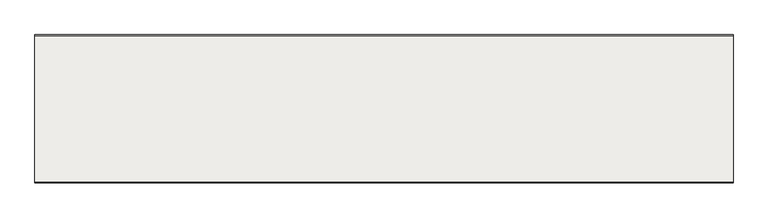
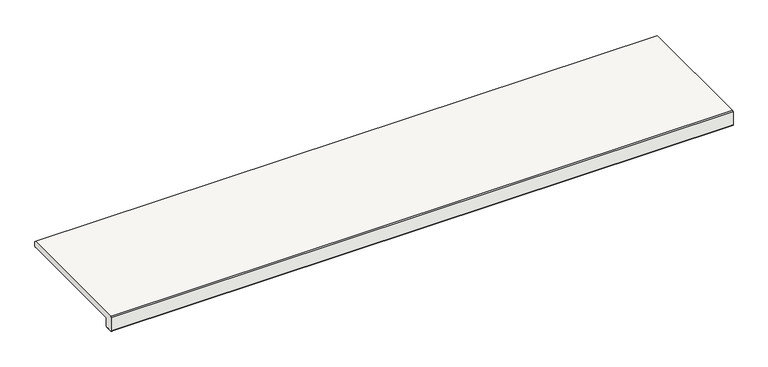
"""IFC4 building model written with IfcOpenShell, lengths in millimetres: slab geometry, ROSA GRES_L98 : Pieza L98_Serena_Ocra_Anti-Slip."""

from ifc_helpers import new_model, si_unit, point, frame, frame_2d, origin, place, context, project, spatial, polyline, circle_curve, trimmed, segment, composite_curve, outline, extrude, source, transform, mapped, element, save


def slab_bc5605a9(model_context):
    return source(origin(), model_context, "Body", "SweptSolid", [
        extrude(outline(composite_curve([segment(polyline([(17.5526771, -23.0), (11.8841218, -23.0)]), True, "CONTINUOUS"), segment(trimmed(circle_curve(frame_2d((10.0167467, -23.0)), 1.8673751), [point((11.8841218, -23.0))], [point((8.1493716, -23.0))], True, "CARTESIAN"), True, "CONTINUOUS"), segment(polyline([(8.1493716, -23.0), (2.5, -23.0)]), True, "CONTINUOUS"), segment(trimmed(circle_curve(frame_2d((2.5, -20.5)), 2.5), [point((2.5, -23.0))], [point((0.0, -20.5))], False, "CARTESIAN"), True, "CONTINUOUS"), segment(polyline([(0.0, -20.5), (0.0, 12.5), (2.5, 15.0), (314.5, 15.0), (317.0, 12.5), (317.0, 2.5)]), True, "CONTINUOUS"), segment(trimmed(circle_curve(frame_2d((314.5, 2.5)), 2.5), [point((317.0, 2.5))], [point((314.5, 0.0))], False, "CARTESIAN"), True, "CONTINUOUS"), segment(polyline([(314.5, 0.0), (22.471267, 0.0)]), True, "CONTINUOUS"), segment(trimmed(circle_curve(frame_2d((22.471267, -2.5191553)), 2.5191553), [point((22.471267, 0.0))], [point((19.9521117, -2.5191553))], True, "CARTESIAN"), True, "CONTINUOUS"), segment(polyline([(19.9521117, -2.5191553), (19.9521117, -20.6005654)]), True, "CONTINUOUS"), segment(trimmed(circle_curve(frame_2d((17.5526771, -20.6005654)), 2.3994346), [point((19.9521117, -20.6005654))], [point((17.5526771, -23.0))], False, "CARTESIAN"), True, "CONTINUOUS")], self_intersect=False)), frame((0.0, 0.0, 0.0), z_axis=(1.0, 0.0, 0.0), x_axis=(0.0, 1.0, 0.0)), (0.0, 0.0, 1.0), 1491.0405043),
    ])


if __name__ == "__main__":
    model = new_model("IFC4")
    model_context = context("Model", 3, world=origin())
    ifc_project = project(units=[si_unit("LENGTHUNIT", "METRE", prefix="MILLI")], contexts=[model_context])
    site = spatial("IfcSite", under=ifc_project)
    building = spatial("IfcBuilding", under=site)
    placement = place(None, origin())
    slab_shape = slab_bc5605a9(model_context)
    element("IfcSlab", 1, ObjectType="ROSA GRES_L98 : Pieza L98_Serena_Ocra_Anti-Slip", at=placement, inside=building, context=model_context, shape_type="MappedRepresentation", body=[
        mapped(slab_shape, transform((0.0, 0.0, 0.0), x_axis=(1.0, 0.0, 0.0), y_axis=(0.0, 1.0, 0.0), z_axis=(0.0, 0.0, 1.0))),
    ])
    save(model, "model.ifc")
